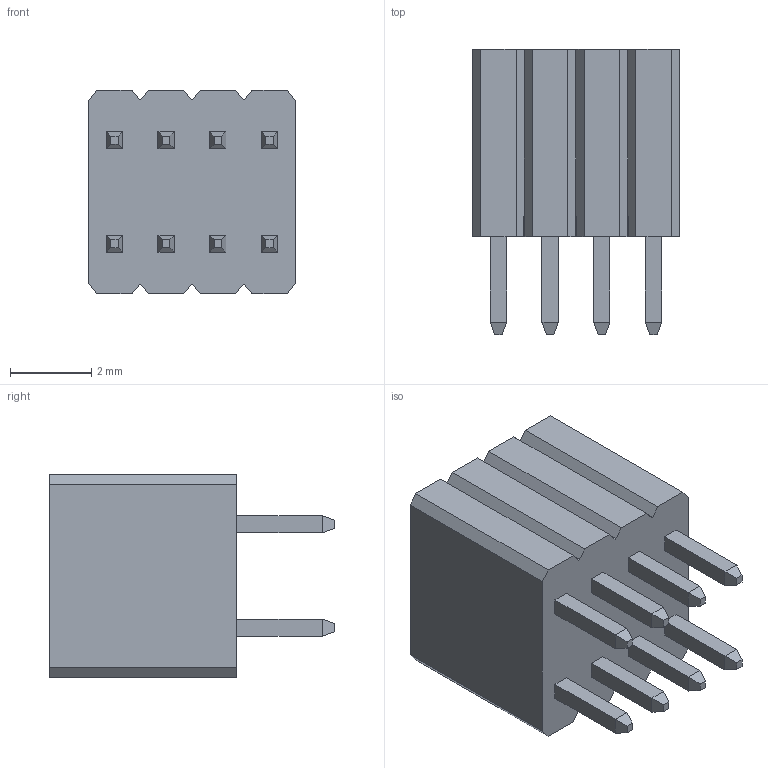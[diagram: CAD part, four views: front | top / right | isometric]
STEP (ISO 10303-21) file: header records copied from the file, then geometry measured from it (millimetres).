
FILE_DESCRIPTION (( 'STEP AP203' ), '1' );
FILE_NAME ('2244-2X04G00SU-1100628.STEP', '2021-06-28T09:32:11', ( '' ), ( '' ), 'SwSTEP 2.0', 'SolidWorks 2019', '' );
FILE_SCHEMA (( 'CONFIG_CONTROL_DESIGN' ));
Length unit declared in the file: millimetre
Products named in the file (2): 2244-2X04G00SU; 2244-2X04G00SU-1100628
Assembly tree (1 placements, depth 2):
  2244-2X04G00SU-1100628
    2244-2X04G00SU
Bounding box: 5.08 x 7 x 5 mm (x, y, z)
Volume: 117.3 mm3; surface area: 208 mm2
Topology: 3 solids, 3 shells, 172 faces, 424 edges, 272 vertices
Faces by surface type: plane 172
Entity records: 5124 total; most frequent: CARTESIAN_POINT 872, ORIENTED_EDGE 848, DIRECTION 776, VECTOR 424, LINE 424, EDGE_CURVE 424, VERTEX_POINT 272, EDGE_LOOP 186
